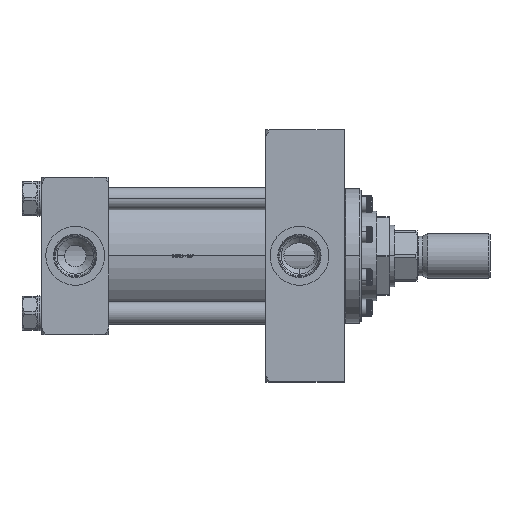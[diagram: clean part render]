
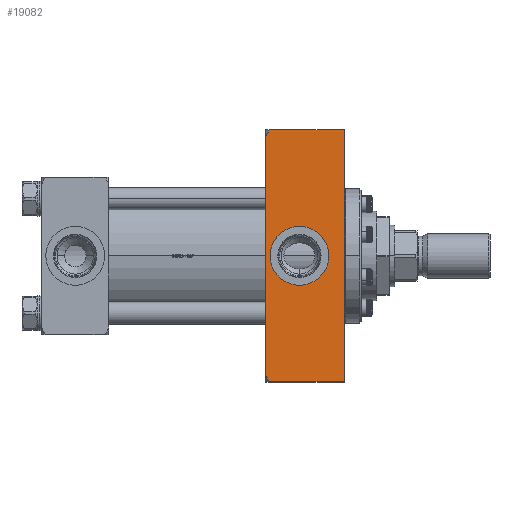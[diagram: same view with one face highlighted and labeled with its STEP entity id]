
A CAD part, top view. The second image highlights one B-rep face of the part: STEP entity #19082.
In plain terms, the highlighted planar face has unit normal (0, 0, 1).
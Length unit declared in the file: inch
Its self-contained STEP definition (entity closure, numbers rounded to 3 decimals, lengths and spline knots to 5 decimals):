
#445 = CARTESIAN_POINT ( 'NONE',  ( -3.37232, 2.64953, 1.75 ) ) ;
#916 = ORIENTED_EDGE ( 'NONE', *, *, #73126, .T. ) ;
#1237 = CARTESIAN_POINT ( 'NONE',  ( -3.30263, 2.79769, 1.75 ) ) ;
#2115 = DIRECTION ( 'NONE',  ( 0., 1., 0. ) ) ;
#2162 = CARTESIAN_POINT ( 'NONE',  ( -3.375, 2.6125, 1.75 ) ) ;
#2816 = CARTESIAN_POINT ( 'NONE',  ( -1.625, -2.8125, 1.75 ) ) ;
#4927 = DIRECTION ( 'NONE',  ( 1., 0., 0. ) ) ;
#5761 = EDGE_CURVE ( 'NONE', #46020, #40901, #76891, .T. ) ;
#6048 = CARTESIAN_POINT ( 'NONE',  ( -2.625, 0., 1.75 ) ) ;
#6245 = CARTESIAN_POINT ( 'NONE',  ( -3.375, 2.63099, 1.75 ) ) ;
#6651 = CARTESIAN_POINT ( 'NONE',  ( -3.34065, 2.73554, 1.75 ) ) ;
#7070 = CARTESIAN_POINT ( 'NONE',  ( -3.31273, 2.78261, 1.75 ) ) ;
#8889 = ORIENTED_EDGE ( 'NONE', *, *, #34979, .F. ) ;
#9832 = CIRCLE ( 'NONE', #48639, 0.65625 ) ;
#10499 = ORIENTED_EDGE ( 'NONE', *, *, #67869, .F. ) ;
#10734 = CARTESIAN_POINT ( 'NONE',  ( -3.30272, -2.79756, 1.75 ) ) ;
#12286 = CARTESIAN_POINT ( 'NONE',  ( -2.625, -0.65625, 1.75 ) ) ;
#12882 = VERTEX_POINT ( 'NONE', #46191 ) ;
#13723 = CARTESIAN_POINT ( 'NONE',  ( -3.35635, 2.7021, 1.75 ) ) ;
#13960 = AXIS2_PLACEMENT_3D ( 'NONE', #24282, #77401, #19926 ) ;
#14121 = CARTESIAN_POINT ( 'NONE',  ( -3.29216, 2.8125, 1.75 ) ) ;
#14626 = DIRECTION ( 'NONE',  ( 0., 0., -1. ) ) ;
#14851 = CARTESIAN_POINT ( 'NONE',  ( -1.625, -2.8125, 1.75 ) ) ;
#16283 = PLANE ( 'NONE',  #13960 ) ;
#16565 = CARTESIAN_POINT ( 'NONE',  ( -3.35257, -2.7101, 1.75 ) ) ;
#16816 = CIRCLE ( 'NONE', #40902, 0.65625 ) ;
#17473 = CARTESIAN_POINT ( 'NONE',  ( -3.375, 2.8125, 1.75 ) ) ;
#17834 = CARTESIAN_POINT ( 'NONE',  ( -3.375, -2.6125, 1.75 ) ) ;
#17986 = ORIENTED_EDGE ( 'NONE', *, *, #55528, .F. ) ;
#18197 = DIRECTION ( 'NONE',  ( 0., 0., -1. ) ) ;
#18324 = VERTEX_POINT ( 'NONE', #50772 ) ;
#19082 = ADVANCED_FACE ( 'NONE', ( #22622, #48553 ), #16283, .F. ) ;
#19642 = CARTESIAN_POINT ( 'NONE',  ( -3.33173, 2.75154, 1.75 ) ) ;
#19926 = DIRECTION ( 'NONE',  ( 0., 1., 0. ) ) ;
#21465 = CARTESIAN_POINT ( 'NONE',  ( -3.375, -2.6125, 1.75 ) ) ;
#21996 = VERTEX_POINT ( 'NONE', #2162 ) ;
#22622 = FACE_OUTER_BOUND ( 'NONE', #70170, .T. ) ;
#23461 = VECTOR ( 'NONE', #4927, 39.37008 ) ;
#24151 = CARTESIAN_POINT ( 'NONE',  ( -3.29216, -2.8125, 1.75 ) ) ;
#24282 = CARTESIAN_POINT ( 'NONE',  ( -3.375, -2.8125, 1.75 ) ) ;
#25554 = CARTESIAN_POINT ( 'NONE',  ( -3.375, 2.6125, 1.75 ) ) ;
#28812 = ORIENTED_EDGE ( 'NONE', *, *, #5761, .T. ) ;
#30009 = CARTESIAN_POINT ( 'NONE',  ( -3.31292, -2.78233, 1.75 ) ) ;
#31497 = VERTEX_POINT ( 'NONE', #12286 ) ;
#32839 = VECTOR ( 'NONE', #61524, 39.37008 ) ;
#32924 = CARTESIAN_POINT ( 'NONE',  ( -2.625, 0.65625, 1.75 ) ) ;
#34979 = EDGE_CURVE ( 'NONE', #46020, #38737, #45224, .T. ) ;
#38737 = VERTEX_POINT ( 'NONE', #21465 ) ;
#40901 = VERTEX_POINT ( 'NONE', #2816 ) ;
#40902 = AXIS2_PLACEMENT_3D ( 'NONE', #64581, #14626, #2115 ) ;
#42117 = DIRECTION ( 'NONE',  ( 0., 1., 0. ) ) ;
#42912 = VECTOR ( 'NONE', #42117, 39.37008 ) ;
#44976 = CARTESIAN_POINT ( 'NONE',  ( -3.375, -2.8125, 1.75 ) ) ;
#45224 = B_SPLINE_CURVE_WITH_KNOTS ( 'NONE', 3,
 ( #24151, #10734, #30009, #49266, #48832, #16565, #56807, #56385, #55133, #49683, #75303, #17834 ),
 .UNSPECIFIED., .F., .F.,
 ( 4, 2, 2, 2, 2, 4 ),
 ( 0.00627, 0.00766, 0.00905, 0.00975, 0.01044, 0.01184 ),
 .UNSPECIFIED. ) ;
#46020 = VERTEX_POINT ( 'NONE', #48206 ) ;
#46191 = CARTESIAN_POINT ( 'NONE',  ( -3.29216, 2.8125, 1.75 ) ) ;
#46696 = LINE ( 'NONE', #14851, #42912 ) ;
#47767 = VECTOR ( 'NONE', #64300, 39.37008 ) ;
#48206 = CARTESIAN_POINT ( 'NONE',  ( -3.29216, -2.8125, 1.75 ) ) ;
#48553 = FACE_BOUND ( 'NONE', #53019, .T. ) ;
#48639 = AXIS2_PLACEMENT_3D ( 'NONE', #6048, #18197, #56340 ) ;
#48832 = CARTESIAN_POINT ( 'NONE',  ( -3.34096, -2.73492, 1.75 ) ) ;
#49266 = CARTESIAN_POINT ( 'NONE',  ( -3.33208, -2.75094, 1.75 ) ) ;
#49683 = CARTESIAN_POINT ( 'NONE',  ( -3.37243, -2.64896, 1.75 ) ) ;
#50772 = CARTESIAN_POINT ( 'NONE',  ( -1.625, 2.8125, 1.75 ) ) ;
#53019 = EDGE_LOOP ( 'NONE', ( #64168, #916 ) ) ;
#54264 = ORIENTED_EDGE ( 'NONE', *, *, #64313, .T. ) ;
#55133 = CARTESIAN_POINT ( 'NONE',  ( -3.36542, -2.67573, 1.75 ) ) ;
#55528 = EDGE_CURVE ( 'NONE', #38737, #21996, #80408, .T. ) ;
#55584 = EDGE_CURVE ( 'NONE', #12882, #18324, #68649, .T. ) ;
#56340 = DIRECTION ( 'NONE',  ( 0., 1., 0. ) ) ;
#56385 = CARTESIAN_POINT ( 'NONE',  ( -3.36257, -2.68453, 1.75 ) ) ;
#56807 = CARTESIAN_POINT ( 'NONE',  ( -3.35616, -2.7017, 1.75 ) ) ;
#61522 = ORIENTED_EDGE ( 'NONE', *, *, #55584, .F. ) ;
#61524 = DIRECTION ( 'NONE',  ( 0., 1., 0. ) ) ;
#64168 = ORIENTED_EDGE ( 'NONE', *, *, #75016, .T. ) ;
#64300 = DIRECTION ( 'NONE',  ( 1., 0., 0. ) ) ;
#64313 = EDGE_CURVE ( 'NONE', #40901, #18324, #46696, .T. ) ;
#64581 = CARTESIAN_POINT ( 'NONE',  ( -2.625, 0., 1.75 ) ) ;
#66942 = B_SPLINE_CURVE_WITH_KNOTS ( 'NONE', 3,
 ( #25554, #6245, #445, #71566, #13723, #6651, #19642, #7070, #1237, #14121 ),
 .UNSPECIFIED., .F., .F.,
 ( 4, 2, 2, 2, 4 ),
 ( 0.00308, 0.00446, 0.00584, 0.00722, 0.0086 ),
 .UNSPECIFIED. ) ;
#67415 = CARTESIAN_POINT ( 'NONE',  ( -3.375, -2.8125, 1.75 ) ) ;
#67869 = EDGE_CURVE ( 'NONE', #21996, #12882, #66942, .T. ) ;
#68649 = LINE ( 'NONE', #17473, #23461 ) ;
#70170 = EDGE_LOOP ( 'NONE', ( #8889, #28812, #54264, #61522, #10499, #17986 ) ) ;
#71566 = CARTESIAN_POINT ( 'NONE',  ( -3.36296, 2.68498, 1.75 ) ) ;
#73126 = EDGE_CURVE ( 'NONE', #31497, #76330, #9832, .T. ) ;
#75016 = EDGE_CURVE ( 'NONE', #76330, #31497, #16816, .T. ) ;
#75303 = CARTESIAN_POINT ( 'NONE',  ( -3.375, -2.63088, 1.75 ) ) ;
#76330 = VERTEX_POINT ( 'NONE', #32924 ) ;
#76891 = LINE ( 'NONE', #44976, #47767 ) ;
#77401 = DIRECTION ( 'NONE',  ( 0., 0., -1. ) ) ;
#80408 = LINE ( 'NONE', #67415, #32839 ) ;
